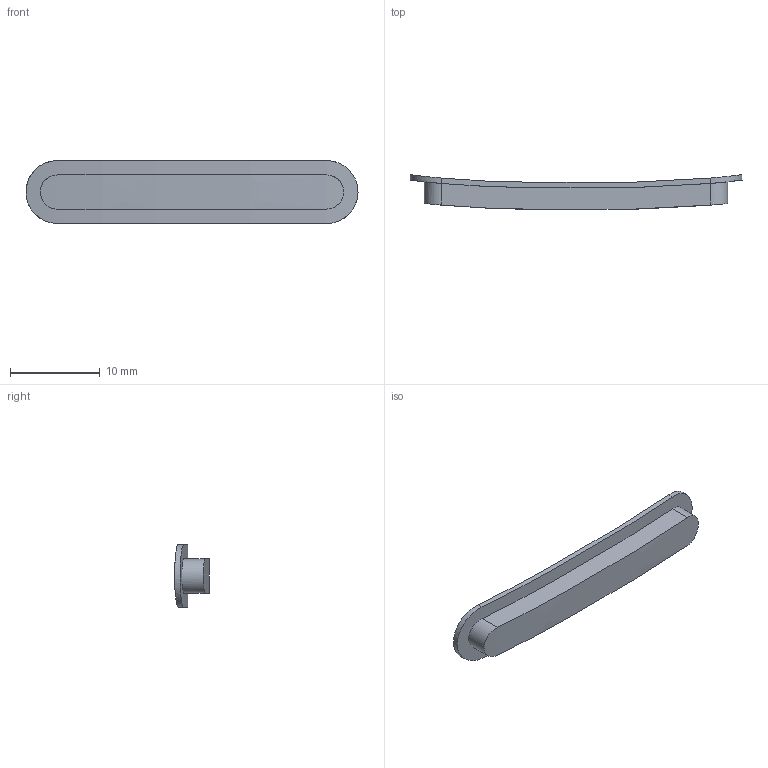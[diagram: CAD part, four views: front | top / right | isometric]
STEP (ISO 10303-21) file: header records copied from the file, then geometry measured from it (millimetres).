
FILE_DESCRIPTION(('Open CASCADE Model'),'2;1');
FILE_NAME('Open CASCADE Shape Model','2026-11-01T16:31:50',('Author'),( 'Open CASCADE'),'Open CASCADE STEP processor 8.0','build123d', 'Unknown');
FILE_SCHEMA(('AUTOMOTIVE_DESIGN { 1 0 10303 214 1 1 1 1 }'));
Length unit declared in the file: millimetre
Products named in the file (1): COMPOUND
Bounding box: 37 x 3.88 x 7 mm (x, y, z)
Volume: 450.5 mm3; surface area: 720 mm2
Topology: 1 solids, 1 shells, 11 faces, 24 edges, 16 vertices
Faces by surface type: cylinder 4, plane 4, offset 2, extrusion 1
Entity records: 3396 total; most frequent: CARTESIAN_POINT 2970, B_SPLINE_CURVE_WITH_KNOTS 51, ORIENTED_EDGE 48, PCURVE 48, DEFINITIONAL_REPRESENTATION 48, DIRECTION 45, VECTOR 27, EDGE_CURVE 24
